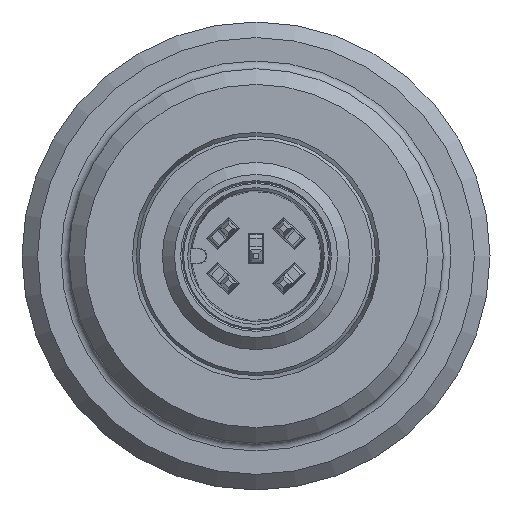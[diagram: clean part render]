
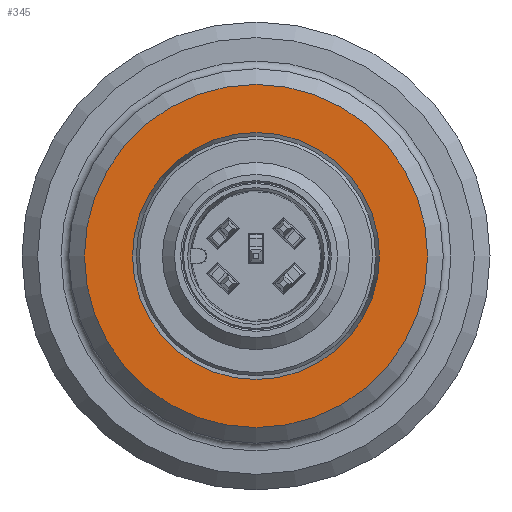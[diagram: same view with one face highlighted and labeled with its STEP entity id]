
A CAD part, left-side view. The second image highlights one B-rep face of the part: STEP entity #345.
In plain terms, the highlighted planar face has unit normal (-1, 0, 0).
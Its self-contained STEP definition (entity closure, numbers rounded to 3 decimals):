
#345 = ADVANCED_FACE( '', ( #803, #804 ), #805, .F. );
#803 = FACE_OUTER_BOUND( '', #1384, .T. );
#804 = FACE_BOUND( '', #1385, .T. );
#805 = PLANE( '', #1386 );
#1384 = EDGE_LOOP( '', ( #2327 ) );
#1385 = EDGE_LOOP( '', ( #2328 ) );
#1386 = AXIS2_PLACEMENT_3D( '', #2329, #2330, #2331 );
#2327 = ORIENTED_EDGE( '', *, *, #3530, .T. );
#2328 = ORIENTED_EDGE( '', *, *, #3426, .F. );
#2329 = CARTESIAN_POINT( '', ( -66., 0., 0. ) );
#2330 = DIRECTION( '', ( 1., 0., 0. ) );
#2331 = DIRECTION( '', ( 0., 0., -1. ) );
#3426 = EDGE_CURVE( '', #4143, #4143, #4144, .T. );
#3530 = EDGE_CURVE( '', #4300, #4300, #4301, .F. );
#4143 = VERTEX_POINT( '', #5074 );
#4144 = CIRCLE( '', #5075, 7.918 );
#4300 = VERTEX_POINT( '', #5292 );
#4301 = CIRCLE( '', #5293, 11. );
#5074 = CARTESIAN_POINT( '', ( -66., 0., 7.918 ) );
#5075 = AXIS2_PLACEMENT_3D( '', #5995, #5996, #5997 );
#5292 = CARTESIAN_POINT( '', ( -66., 0., -11. ) );
#5293 = AXIS2_PLACEMENT_3D( '', #6110, #6111, #6112 );
#5995 = CARTESIAN_POINT( '', ( -66., 0., 0. ) );
#5996 = DIRECTION( '', ( -1., 0., 0. ) );
#5997 = DIRECTION( '', ( 0., 0., 1. ) );
#6110 = CARTESIAN_POINT( '', ( -66., 0., 0. ) );
#6111 = DIRECTION( '', ( 1., 0., 0. ) );
#6112 = DIRECTION( '', ( 0., 0., -1. ) );
